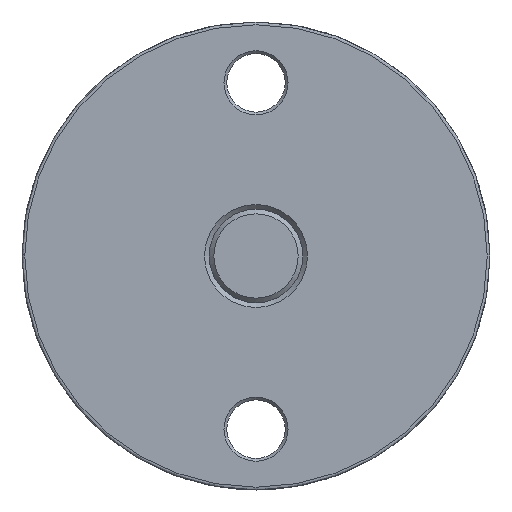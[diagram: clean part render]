
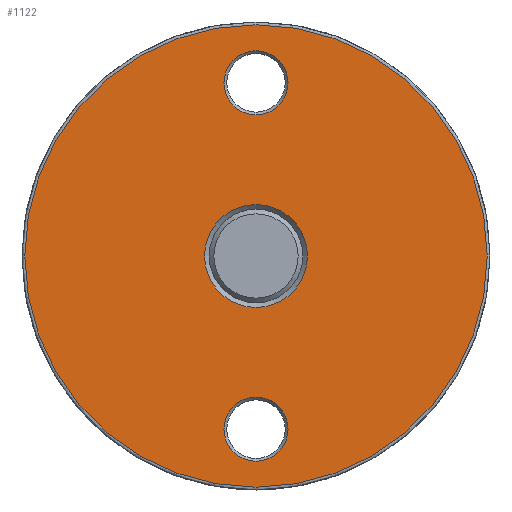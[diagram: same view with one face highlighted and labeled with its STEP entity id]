
A CAD part, left-side view. The second image highlights one B-rep face of the part: STEP entity #1122.
In plain terms, the highlighted planar face has unit normal (-1, 0, 0).
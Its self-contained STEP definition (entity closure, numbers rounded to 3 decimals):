
#281=CARTESIAN_POINT('',(-525.136,-488.109,-49.4));
#282=VERTEX_POINT('',#281);
#309=CARTESIAN_POINT('',(-525.136,-488.109,49.4));
#310=VERTEX_POINT('',#309);
#311=CARTESIAN_POINT('',(-525.136,-488.109,0.0));
#312=DIRECTION('',(-1.0,0.0,0.0));
#313=DIRECTION('',(0.0,0.0,-1.0));
#314=AXIS2_PLACEMENT_3D('',#311,#312,#313);
#315=CIRCLE('',#314,49.4);
#316=EDGE_CURVE('',#310,#282,#315,.T.);
#318=CARTESIAN_POINT('',(-525.136,-488.109,0.0));
#319=DIRECTION('',(-1.0,0.0,0.0));
#320=DIRECTION('',(0.0,0.0,-1.0));
#321=AXIS2_PLACEMENT_3D('',#318,#319,#320);
#322=CIRCLE('',#321,49.4);
#323=EDGE_CURVE('',#282,#310,#322,.T.);
#955=CARTESIAN_POINT('',(-525.136,-499.109,0.));
#956=VERTEX_POINT('',#955);
#966=CARTESIAN_POINT('',(-525.136,-477.109,0.));
#967=VERTEX_POINT('',#966);
#968=CARTESIAN_POINT('',(-525.136,-488.109,0.));
#969=DIRECTION('',(-1.0,0.0,0.0));
#970=DIRECTION('',(0.0,-1.0,0.0));
#971=AXIS2_PLACEMENT_3D('',#968,#969,#970);
#972=CIRCLE('',#971,11.0);
#973=EDGE_CURVE('',#956,#967,#972,.T.);
#975=CARTESIAN_POINT('',(-525.136,-488.109,0.));
#976=DIRECTION('',(-1.0,0.0,0.0));
#977=DIRECTION('',(0.0,-1.0,0.0));
#978=AXIS2_PLACEMENT_3D('',#975,#976,#977);
#979=CIRCLE('',#978,11.0);
#980=EDGE_CURVE('',#967,#956,#979,.T.);
#1069=CARTESIAN_POINT('',(-525.136,-389.309,98.8));
#1070=DIRECTION('',(1.0,0.0,0.0));
#1071=DIRECTION('',(0.0,-1.0,0.0));
#1072=AXIS2_PLACEMENT_3D('',#1069,#1070,#1071);
#1073=PLANE('',#1072);
#1074=ORIENTED_EDGE('',*,*,#323,.T.);
#1075=ORIENTED_EDGE('',*,*,#316,.T.);
#1076=EDGE_LOOP('',(#1074,#1075));
#1077=FACE_OUTER_BOUND('',#1076,.T.);
#1078=ORIENTED_EDGE('',*,*,#980,.F.);
#1079=ORIENTED_EDGE('',*,*,#973,.F.);
#1080=EDGE_LOOP('',(#1078,#1079));
#1081=FACE_BOUND('',#1080,.T.);
#1082=CARTESIAN_POINT('',(-525.136,-481.259,-37.0));
#1083=VERTEX_POINT('',#1082);
#1084=CARTESIAN_POINT('',(-525.136,-494.959,-37.0));
#1085=VERTEX_POINT('',#1084);
#1086=CARTESIAN_POINT('',(-525.136,-488.109,-37.0));
#1087=DIRECTION('',(-1.0,0.0,0.0));
#1088=DIRECTION('',(0.0,-1.0,0.0));
#1089=AXIS2_PLACEMENT_3D('',#1086,#1087,#1088);
#1090=CIRCLE('',#1089,6.85);
#1091=EDGE_CURVE('',#1083,#1085,#1090,.T.);
#1092=ORIENTED_EDGE('',*,*,#1091,.F.);
#1093=CARTESIAN_POINT('',(-525.136,-488.109,-37.0));
#1094=DIRECTION('',(-1.0,0.0,0.0));
#1095=DIRECTION('',(0.0,-1.0,0.0));
#1096=AXIS2_PLACEMENT_3D('',#1093,#1094,#1095);
#1097=CIRCLE('',#1096,6.85);
#1098=EDGE_CURVE('',#1085,#1083,#1097,.T.);
#1099=ORIENTED_EDGE('',*,*,#1098,.F.);
#1100=EDGE_LOOP('',(#1092,#1099));
#1101=FACE_BOUND('',#1100,.T.);
#1102=CARTESIAN_POINT('',(-525.136,-481.259,37.0));
#1103=VERTEX_POINT('',#1102);
#1104=CARTESIAN_POINT('',(-525.136,-494.959,37.0));
#1105=VERTEX_POINT('',#1104);
#1106=CARTESIAN_POINT('',(-525.136,-488.109,37.0));
#1107=DIRECTION('',(-1.0,0.0,0.0));
#1108=DIRECTION('',(0.0,-1.0,0.0));
#1109=AXIS2_PLACEMENT_3D('',#1106,#1107,#1108);
#1110=CIRCLE('',#1109,6.85);
#1111=EDGE_CURVE('',#1103,#1105,#1110,.T.);
#1112=ORIENTED_EDGE('',*,*,#1111,.F.);
#1113=CARTESIAN_POINT('',(-525.136,-488.109,37.0));
#1114=DIRECTION('',(-1.0,0.0,0.0));
#1115=DIRECTION('',(0.0,-1.0,0.0));
#1116=AXIS2_PLACEMENT_3D('',#1113,#1114,#1115);
#1117=CIRCLE('',#1116,6.85);
#1118=EDGE_CURVE('',#1105,#1103,#1117,.T.);
#1119=ORIENTED_EDGE('',*,*,#1118,.F.);
#1120=EDGE_LOOP('',(#1112,#1119));
#1121=FACE_BOUND('',#1120,.T.);
#1122=ADVANCED_FACE('',(#1077,#1081,#1101,#1121),#1073,.F.);
